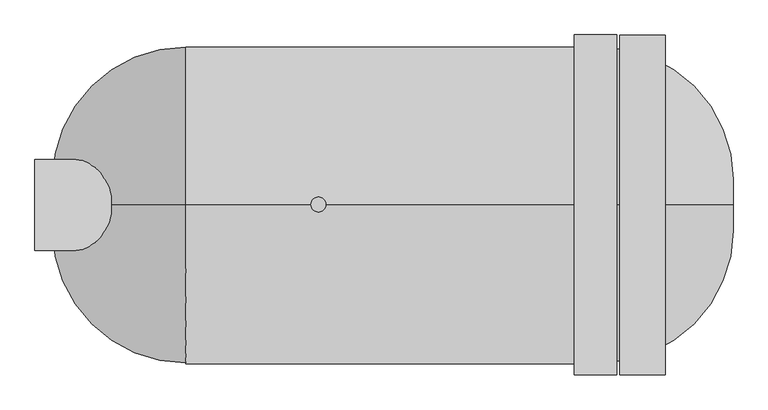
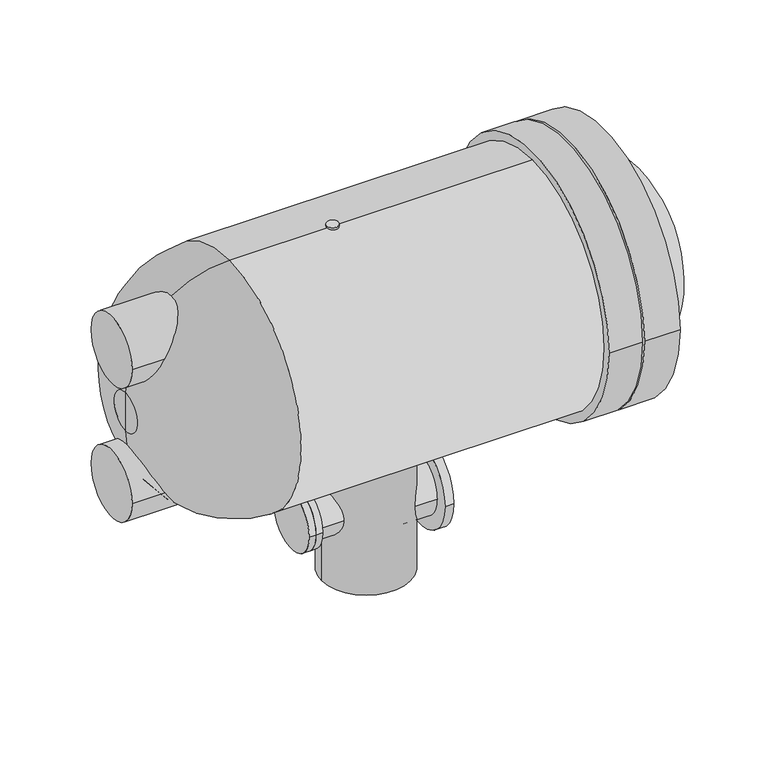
"""IFC4 building model written with IfcOpenShell, lengths in millimetres: proxy geometry, Micronic Filter : Micronic Filter."""

from ifc_helpers import new_model, si_unit, point, frame, frame_2d, origin, place, context, project, spatial, circle_curve, ellipse_curve, trimmed, segment, composite_curve, outline, extrude, source, transform, mapped, element, save
from ifc_brep_helpers import plane_surface, cylinder_surface, revolved_surface, advanced_brep


def mechanical_equipment_f97942b3(model_context):
    return source(origin(), model_context, "Body", "SolidModel", [
        extrude(outline(composite_curve([segment(trimmed(circle_curve(frame_2d((-325.12, 1524.0)), 381.0), [point((-706.12, 1524.0))], [point((55.88, 1524.0))], False, "CARTESIAN"), True, "CONTINUOUS"), segment(trimmed(circle_curve(frame_2d((-325.12, 1524.0)), 381.0), [point((55.88, 1524.0))], [point((-706.12, 1524.0))], False, "CARTESIAN"), True, "CONTINUOUS")], self_intersect=False)), frame((-101.6, 0.0, 0.0), z_axis=(1.0, 0.0, 0.0), x_axis=(0.0, 1.0, 0.0)), (0.0, 0.0, 1.0), 101.6),
        extrude(outline(composite_curve([segment(trimmed(circle_curve(frame_2d((-324.5495865, 1523.6073095)), 381.0), [point((-705.5495865, 1523.6073095))], [point((56.4504135, 1523.6073095))], False, "CARTESIAN"), True, "CONTINUOUS"), segment(trimmed(circle_curve(frame_2d((-324.5495865, 1523.6073095)), 381.0), [point((56.4504135, 1523.6073095))], [point((-705.5495865, 1523.6073095))], False, "CARTESIAN"), True, "CONTINUOUS")], self_intersect=False)), frame((-203.2, 0.0, 0.0), z_axis=(1.0, 0.0, 0.0), x_axis=(0.0, 1.0, 0.0)), (0.0, 0.0, 1.0), 95.4946528),
        extrude(outline(composite_curve([segment(trimmed(circle_curve(frame_2d((-776.5518043, -323.8644812)), 16.7005), [point((-793.2523043, -323.8644812))], [point((-759.8513043, -323.8644812))], False, "CARTESIAN"), True, "CONTINUOUS"), segment(trimmed(circle_curve(frame_2d((-776.5518043, -323.8644812)), 16.7005), [point((-759.8513043, -323.8644812))], [point((-793.2523043, -323.8644812))], False, "CARTESIAN"), True, "CONTINUOUS")], self_intersect=False)), frame((0.0, 0.0, 1873.4984646), z_axis=(0.0, 0.0, 1.0), x_axis=(1.0, 0.0, 0.0)), (0.0, 0.0, 1.0), 11.6106957),
        advanced_brep(
        [(-146.05, -325.12, 1168.4), (-146.05, -325.12, 1879.6), (-1073.15, -325.12, 1879.6), (-1073.15, -325.12, 1168.4), (152.4, -325.12, 1466.85), (152.4, -325.12, 1581.15), (152.4, -325.12, 1524.0), (-1371.6, -325.12, 1466.85), (-1371.6, -325.12, 1581.15), (-1371.6, -325.12, 1524.0)],
        [
            (0, 1, circle_curve(frame((-146.05, -325.12, 1524.0), z_axis=(-1.0, 0.0, 0.0), x_axis=(0.0, 0.0, 1.0)), 355.6)),
            (1, 2),
            (2, 3, circle_curve(frame((-1073.15, -325.12, 1524.0), z_axis=(1.0, 0.0, 0.0), x_axis=(0.0, 0.0, 1.0)), 355.6)),
            (3, 0),
            (1, 0, circle_curve(frame((-146.05, -325.12, 1524.0), z_axis=(-1.0, 0.0, 0.0), x_axis=(0.0, 0.0, 1.0)), 355.6)),
            (3, 2, circle_curve(frame((-1073.15, -325.12, 1524.0), z_axis=(1.0, 0.0, 0.0), x_axis=(0.0, 0.0, 1.0)), 355.6)),
            (4, 5, circle_curve(frame((152.4, -325.12, 1524.0), z_axis=(-1.0, 0.0, 0.0), x_axis=(0.0, 0.0, 1.0)), 57.15)),
            (5, 1, circle_curve(frame((-146.05, -325.12, 1581.15), z_axis=(0.0, -1.0, 0.0), x_axis=(-1.0, 0.0, 0.0)), 298.45)),
            (0, 4, circle_curve(frame((-146.05, -325.12, 1466.85), z_axis=(0.0, -1.0, 0.0), x_axis=(-1.0, 0.0, 0.0)), 298.45)),
            (5, 4, circle_curve(frame((152.4, -325.12, 1524.0), z_axis=(-1.0, 0.0, 0.0), x_axis=(0.0, 0.0, 1.0)), 57.15)),
            (6, 5),
            (4, 6),
            (7, 8, circle_curve(frame((-1371.6, -325.12, 1524.0), z_axis=(-1.0, 0.0, 0.0), x_axis=(0.0, 0.0, 1.0)), 57.15)),
            (8, 9),
            (9, 7),
            (8, 7, circle_curve(frame((-1371.6, -325.12, 1524.0), z_axis=(-1.0, 0.0, 0.0), x_axis=(0.0, 0.0, 1.0)), 57.15)),
            (2, 8, circle_curve(frame((-1073.15, -325.12, 1581.15), z_axis=(0.0, -1.0, 0.0), x_axis=(-1.0, 0.0, 0.0)), 298.45)),
            (7, 3, circle_curve(frame((-1073.15, -325.12, 1466.85), z_axis=(0.0, -1.0, 0.0), x_axis=(-1.0, 0.0, 0.0)), 298.45)),
        ],
        [
            cylinder_surface(frame((-1577.9357054, -325.12, 1524.0), z_axis=(1.0, 0.0, 0.0), x_axis=(0.0, 0.0, 1.0)), 355.6),
            revolved_surface(trimmed(ellipse_curve(frame((-146.05, -325.12, 1581.15), z_axis=(0.0, 1.0, 0.0), x_axis=(-1.0, 0.0, 0.0)), 298.45, 298.45), [point((-146.05, -325.12, 1879.6))], [point((152.4, -325.12, 1581.15))], True, "CARTESIAN"), (-1577.9357054, -325.12, 1524.0), (1.0, 0.0, 0.0)),
            plane_surface(frame((152.4, -325.12, 1524.0), z_axis=(1.0, 0.0, 0.0), x_axis=(0.0, 0.0, 1.0))),
            plane_surface(frame((-1371.6, -325.12, 1524.0), z_axis=(-1.0, 0.0, 0.0), x_axis=(0.0, 0.0, 1.0))),
            revolved_surface(trimmed(ellipse_curve(frame((-1073.15, -325.12, 1581.15), z_axis=(0.0, 1.0, 0.0), x_axis=(-1.0, 0.0, 0.0)), 298.45, 298.45), [point((-1371.6, -325.12, 1581.15))], [point((-1073.15, -325.12, 1879.6))], True, "CARTESIAN"), (-1577.9357054, -325.12, 1524.0), (1.0, 0.0, 0.0)),
        ],
        [
            (0, [[1, 2, 3, 4]]),
            (0, [[5, -4, 6, -2]]),
            (1, [[7, 8, -1, 9]]),
            (1, [[10, -9, -5, -8]]),
            (2, [[11, -7, 12]]),
            (2, [[-12, -10, -11]]),
            (3, [[13, 14, 15]]),
            (3, [[16, -15, -14]]),
            (4, [[-3, 17, -13, 18]]),
            (4, [[-6, -18, -16, -17]]),
        ],
    ),
        extrude(outline(composite_curve([segment(trimmed(circle_curve(frame_2d((-325.12, 1030.6613722)), 88.9), [point((-414.02, 1030.6613722))], [point((-236.22, 1030.6613722))], False, "CARTESIAN"), True, "CONTINUOUS"), segment(trimmed(circle_curve(frame_2d((-325.12, 1030.6613722)), 88.9), [point((-236.22, 1030.6613722))], [point((-414.02, 1030.6613722))], False, "CARTESIAN"), True, "CONTINUOUS")], self_intersect=False)), frame((-895.5324712, 0.0, 0.0), z_axis=(1.0, 0.0, 0.0), x_axis=(0.0, 1.0, 0.0)), (0.0, 0.0, 1.0), 19.05),
        extrude(outline(composite_curve([segment(trimmed(circle_curve(frame_2d((-325.12, 1030.6613722)), 88.9), [point((-414.02, 1030.6613722))], [point((-236.22, 1030.6613722))], False, "CARTESIAN"), True, "CONTINUOUS"), segment(trimmed(circle_curve(frame_2d((-325.12, 1030.6613722)), 88.9), [point((-236.22, 1030.6613722))], [point((-414.02, 1030.6613722))], False, "CARTESIAN"), True, "CONTINUOUS")], self_intersect=False)), frame((-876.4824712, 0.0, 0.0), z_axis=(1.0, 0.0, 0.0), x_axis=(0.0, 1.0, 0.0)), (0.0, 0.0, 1.0), 19.05),
        extrude(outline(composite_curve([segment(trimmed(circle_curve(frame_2d((-325.12, 1017.3360994)), 127.0), [point((-452.12, 1017.3360994))], [point((-198.12, 1017.3360994))], False, "CARTESIAN"), True, "CONTINUOUS"), segment(trimmed(circle_curve(frame_2d((-325.12, 1017.3360994)), 127.0), [point((-198.12, 1017.3360994))], [point((-452.12, 1017.3360994))], False, "CARTESIAN"), True, "CONTINUOUS")], self_intersect=False)), frame((-527.846108, 0.0, 0.0), z_axis=(1.0, 0.0, 0.0), x_axis=(0.0, 1.0, 0.0)), (0.0, 0.0, 1.0), 25.4),
        extrude(outline(composite_curve([segment(trimmed(circle_curve(frame_2d((-325.12, 1030.6613722)), 69.85), [point((-394.97, 1030.6613722))], [point((-255.27, 1030.6613722))], False, "CARTESIAN"), True, "CONTINUOUS"), segment(trimmed(circle_curve(frame_2d((-325.12, 1030.6613722)), 69.85), [point((-255.27, 1030.6613722))], [point((-394.97, 1030.6613722))], False, "CARTESIAN"), True, "CONTINUOUS")], self_intersect=False)), frame((-857.4324712, 0.0, 0.0), z_axis=(1.0, 0.0, 0.0), x_axis=(0.0, 1.0, 0.0)), (0.0, 0.0, 1.0), 103.9533348),
        extrude(outline(composite_curve([segment(trimmed(circle_curve(frame_2d((-325.12, 1017.6067519)), 88.9), [point((-414.02, 1017.6067519))], [point((-236.22, 1017.6067519))], False, "CARTESIAN"), True, "CONTINUOUS"), segment(trimmed(circle_curve(frame_2d((-325.12, 1017.6067519)), 88.9), [point((-236.22, 1017.6067519))], [point((-414.02, 1017.6067519))], False, "CARTESIAN"), True, "CONTINUOUS")], self_intersect=False)), frame((-608.9182706, 0.0, 0.0), z_axis=(1.0, 0.0, 0.0), x_axis=(0.0, 1.0, 0.0)), (0.0, 0.0, 1.0), 81.0721626),
        extrude(outline(composite_curve([segment(trimmed(circle_curve(frame_2d((-680.25715, -323.6524095)), 127.0), [point((-807.25715, -323.6524095))], [point((-553.25715, -323.6524095))], False, "CARTESIAN"), True, "CONTINUOUS"), segment(trimmed(circle_curve(frame_2d((-680.25715, -323.6524095)), 127.0), [point((-553.25715, -323.6524095))], [point((-807.25715, -323.6524095))], False, "CARTESIAN"), True, "CONTINUOUS")], self_intersect=False)), frame((0.0, 0.0, 812.8), z_axis=(0.0, 0.0, 1.0), x_axis=(1.0, 0.0, 0.0)), (0.0, 0.0, 1.0), 431.1098013),
        extrude(outline(composite_curve([segment(trimmed(circle_curve(frame_2d((-325.12, 1727.2)), 101.6), [point((-426.72, 1727.2))], [point((-223.52, 1727.2))], False, "CARTESIAN"), True, "CONTINUOUS"), segment(trimmed(circle_curve(frame_2d((-325.12, 1727.2)), 101.6), [point((-223.52, 1727.2))], [point((-426.72, 1727.2))], False, "CARTESIAN"), True, "CONTINUOUS")], self_intersect=False)), frame((-1411.5518043, 0.0, 0.0), z_axis=(1.0, 0.0, 0.0), x_axis=(0.0, 1.0, 0.0)), (0.0, 0.0, 1.0), 201.3920763),
        extrude(outline(composite_curve([segment(trimmed(circle_curve(frame_2d((-325.12, 1320.8)), 101.6), [point((-426.72, 1320.8))], [point((-223.52, 1320.8))], False, "CARTESIAN"), True, "CONTINUOUS"), segment(trimmed(circle_curve(frame_2d((-325.12, 1320.8)), 101.6), [point((-223.52, 1320.8))], [point((-426.72, 1320.8))], False, "CARTESIAN"), True, "CONTINUOUS")], self_intersect=False)), frame((-1411.5518043, 0.0, 0.0), z_axis=(1.0, 0.0, 0.0), x_axis=(0.0, 1.0, 0.0)), (0.0, 0.0, 1.0), 201.3920763),
    ])


if __name__ == "__main__":
    model = new_model("IFC4")
    model_context = context("Model", 3, world=origin())
    ifc_project = project(units=[si_unit("LENGTHUNIT", "METRE", prefix="MILLI")], contexts=[model_context])
    site = spatial("IfcSite", under=ifc_project)
    building = spatial("IfcBuilding", under=site)
    placement = place(None, origin())
    mechanical_equipment_shape = mechanical_equipment_f97942b3(model_context)
    element("IfcBuildingElementProxy", 1, Name="Micronic Filter : Micronic Filter", ObjectType="Micronic Filter : Micronic Filter", at=placement, inside=building, context=model_context, shape_type="MappedRepresentation", body=[
        mapped(mechanical_equipment_shape, transform((0.0, 0.0, 0.0), x_axis=(1.0, 0.0, 0.0), y_axis=(0.0, 1.0, 0.0), z_axis=(0.0, 0.0, 1.0))),
    ])
    save(model, "model.ifc")
